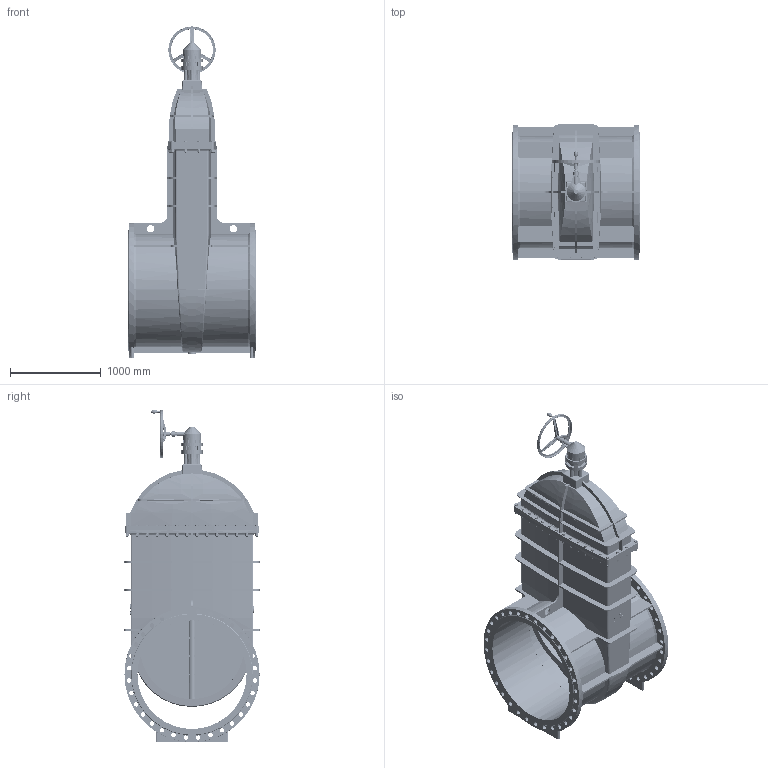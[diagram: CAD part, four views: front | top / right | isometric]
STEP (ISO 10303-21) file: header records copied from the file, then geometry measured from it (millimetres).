
FILE_DESCRIPTION(('STEP AP242'), '1');
FILE_NAME('青溻桄赅', '', ('UNSPECIFIED'), ('UNSPECIFIED'), 'C3D Converter', 'C3D Toolkit', '');
FILE_SCHEMA(('AP242_MANAGED_MODEL_BASED_3D_ENGINEERING_MIM_LF { 1 0 10303 442 1 1 4 }'));
Length unit declared in the file: millimetre
Assembly tree (218 placements, depth 2):
  (unnamed)
    (unnamed)
    (unnamed)
    (unnamed)
    (unnamed)  x2
    (unnamed)
    (unnamed)
    (unnamed)
    (unnamed)
    (unnamed)
    (unnamed)  x32
    (unnamed)  x64
    (unnamed)  x64
    (unnamed)  x32
    (unnamed)  x12
    (unnamed)  x4
Bounding box: 1400 x 1485 x 3649.32 mm (x, y, z)
Volume: 196897423.9 mm3; surface area: 38305327 mm2
Topology: 223 solids, 224 shells, 3673 faces, 8895 edges, 5760 vertices
Faces by surface type: plane 2086, cylinder 832, cone 444, extrusion 159, torus 88, bspline 64
Full cylindrical faces by diameter (mm): 5 x12, 6 x38, 10 x16, 12 x20, 17.294 x32, 18 x8, 20 x37, 22 x160, 30 x32, 34 x64, 40 x1, 46 x9, 50 x65, 60 x2, 80 x2, 81.293 x1, 84 x5, 92 x1, 174.122 x2, 203.548 x1, 232.973 x3, 460 x1, 470 x1, 510 x1, 520 x1, 1143 x2, 1200 x4, 1268.4 x4, 1314 x1, 1485 x2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
Entity records: 81996 total; most frequent: CARTESIAN_POINT 32756, DIRECTION 8399, ORIENTED_EDGE 8095, EDGE_CURVE 4279, VERTEX_POINT 3159, AXIS2_PLACEMENT_3D 3140, EDGE_LOOP 2329, VECTOR 2119
